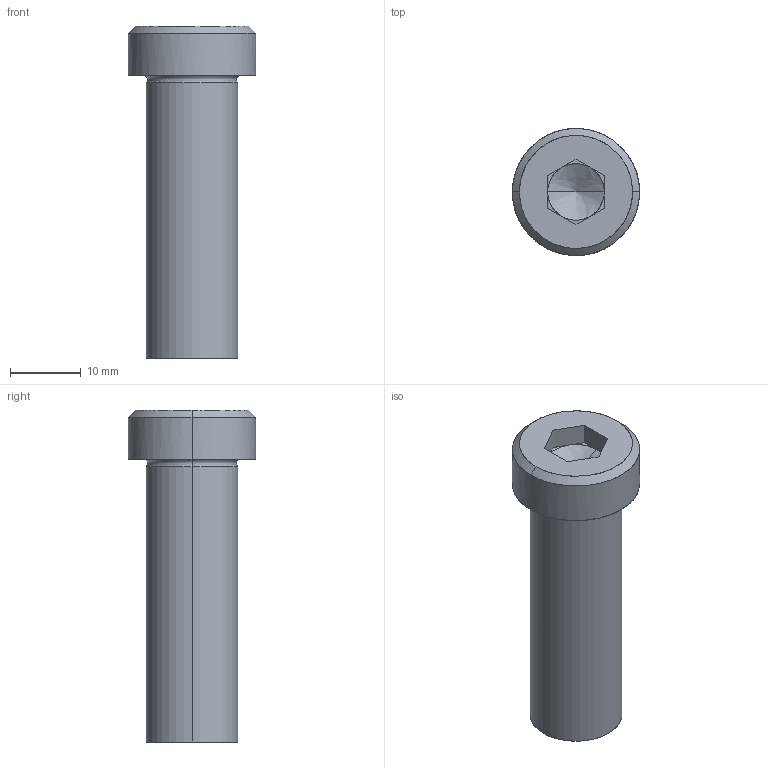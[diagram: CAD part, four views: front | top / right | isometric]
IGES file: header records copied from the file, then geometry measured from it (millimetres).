
Global section: file name: E:\UnigraphicsGraphicData\MISUMI_PRESS-PARTS\IGES\3d_sbtcn13-40_05148_r00.igs; native system: NX V5.0; preprocessor: UGS NX IGES V5.0; author: MISUMI; date: 20110105.162454; units: millimetre
Bounding box: 18 x 18 x 47 mm (x, y, z)
Surface area: 3021 mm2 (no closed solid volume)
Topology: 0 solids, 0 shells, 34 faces, 186 edges, 182 vertices
Faces by surface type: bspline 34
